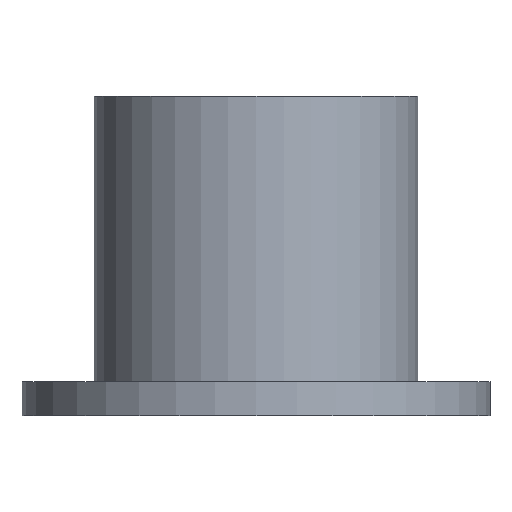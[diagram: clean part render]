
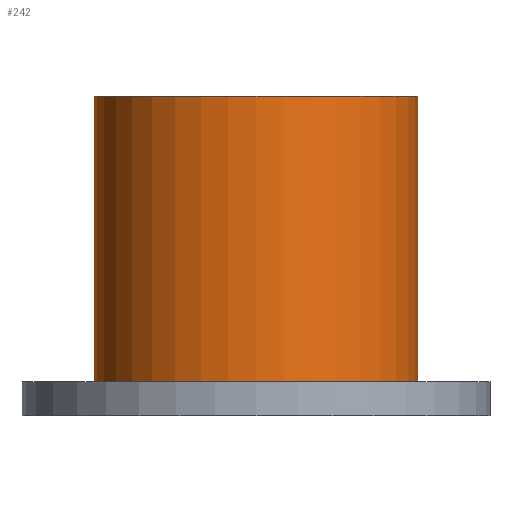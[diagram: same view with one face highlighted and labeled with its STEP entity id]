
A CAD part, front view. The second image highlights one B-rep face of the part: STEP entity #242.
In plain terms, the highlighted cylindrical face has radius 38 mm (diameter 76 mm), a full revolution.
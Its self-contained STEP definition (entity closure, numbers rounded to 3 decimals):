
#66 = PLANE('',#67);
#67 = AXIS2_PLACEMENT_3D('',#68,#69,#70);
#68 = CARTESIAN_POINT('',(0.,0.,8.));
#69 = DIRECTION('',(0.,0.,1.));
#70 = DIRECTION('',(1.,0.,-0.));
#151 = EDGE_CURVE('',#152,#152,#154,.T.);
#152 = VERTEX_POINT('',#153);
#153 = CARTESIAN_POINT('',(38.,0.,8.));
#154 = SURFACE_CURVE('',#155,(#160,#171),.PCURVE_S1.);
#155 = CIRCLE('',#156,38.);
#156 = AXIS2_PLACEMENT_3D('',#157,#158,#159);
#157 = CARTESIAN_POINT('',(0.,0.,8.));
#158 = DIRECTION('',(0.,0.,-1.));
#159 = DIRECTION('',(1.,0.,0.));
#160 = PCURVE('',#66,#161);
#161 = DEFINITIONAL_REPRESENTATION('',(#162),#170);
#162 = ( BOUNDED_CURVE() B_SPLINE_CURVE(2,(#163,#164,#165,#166,#167,#168
,#169),.UNSPECIFIED.,.T.,.F.) B_SPLINE_CURVE_WITH_KNOTS((1,2,2,2,2,1),(
    -2.094,0.,2.094,4.189,6.283,
8.378),.UNSPECIFIED.) CURVE() GEOMETRIC_REPRESENTATION_ITEM() 
RATIONAL_B_SPLINE_CURVE((1.,0.5,1.,0.5,1.,0.5,1.)) REPRESENTATION_ITEM(
  '') );
#163 = CARTESIAN_POINT('',(38.,0.));
#164 = CARTESIAN_POINT('',(38.,-65.818));
#165 = CARTESIAN_POINT('',(-19.,-32.909));
#166 = CARTESIAN_POINT('',(-76.,0.));
#167 = CARTESIAN_POINT('',(-19.,32.909));
#168 = CARTESIAN_POINT('',(38.,65.818));
#169 = CARTESIAN_POINT('',(38.,0.));
#170 = ( GEOMETRIC_REPRESENTATION_CONTEXT(2) 
PARAMETRIC_REPRESENTATION_CONTEXT() REPRESENTATION_CONTEXT('2D SPACE',''
  ) );
#171 = PCURVE('',#172,#177);
#172 = CYLINDRICAL_SURFACE('',#173,38.);
#173 = AXIS2_PLACEMENT_3D('',#174,#175,#176);
#174 = CARTESIAN_POINT('',(0.,0.,0.));
#175 = DIRECTION('',(-0.,-0.,-1.));
#176 = DIRECTION('',(1.,0.,0.));
#177 = DEFINITIONAL_REPRESENTATION('',(#178),#182);
#178 = LINE('',#179,#180);
#179 = CARTESIAN_POINT('',(-6.283,-8.));
#180 = VECTOR('',#181,1.);
#181 = DIRECTION('',(1.,-0.));
#182 = ( GEOMETRIC_REPRESENTATION_CONTEXT(2) 
PARAMETRIC_REPRESENTATION_CONTEXT() REPRESENTATION_CONTEXT('2D SPACE',''
  ) );
#226 = PLANE('',#227);
#227 = AXIS2_PLACEMENT_3D('',#228,#229,#230);
#228 = CARTESIAN_POINT('',(0.,0.,75.));
#229 = DIRECTION('',(0.,0.,1.));
#230 = DIRECTION('',(1.,0.,-0.));
#242 = ADVANCED_FACE('',(#243),#172,.T.);
#243 = FACE_BOUND('',#244,.F.);
#244 = EDGE_LOOP('',(#245,#246,#269,#291));
#245 = ORIENTED_EDGE('',*,*,#151,.T.);
#246 = ORIENTED_EDGE('',*,*,#247,.T.);
#247 = EDGE_CURVE('',#152,#248,#250,.T.);
#248 = VERTEX_POINT('',#249);
#249 = CARTESIAN_POINT('',(38.,0.,75.));
#250 = SEAM_CURVE('',#251,(#255,#262),.PCURVE_S1.);
#251 = LINE('',#252,#253);
#252 = CARTESIAN_POINT('',(38.,0.,0.));
#253 = VECTOR('',#254,1.);
#254 = DIRECTION('',(0.,0.,1.));
#255 = PCURVE('',#172,#256);
#256 = DEFINITIONAL_REPRESENTATION('',(#257),#261);
#257 = LINE('',#258,#259);
#258 = CARTESIAN_POINT('',(-6.283,0.));
#259 = VECTOR('',#260,1.);
#260 = DIRECTION('',(-0.,-1.));
#261 = ( GEOMETRIC_REPRESENTATION_CONTEXT(2) 
PARAMETRIC_REPRESENTATION_CONTEXT() REPRESENTATION_CONTEXT('2D SPACE',''
  ) );
#262 = PCURVE('',#172,#263);
#263 = DEFINITIONAL_REPRESENTATION('',(#264),#268);
#264 = LINE('',#265,#266);
#265 = CARTESIAN_POINT('',(-0.,0.));
#266 = VECTOR('',#267,1.);
#267 = DIRECTION('',(-0.,-1.));
#268 = ( GEOMETRIC_REPRESENTATION_CONTEXT(2) 
PARAMETRIC_REPRESENTATION_CONTEXT() REPRESENTATION_CONTEXT('2D SPACE',''
  ) );
#269 = ORIENTED_EDGE('',*,*,#270,.T.);
#270 = EDGE_CURVE('',#248,#248,#271,.T.);
#271 = SURFACE_CURVE('',#272,(#277,#284),.PCURVE_S1.);
#272 = CIRCLE('',#273,38.);
#273 = AXIS2_PLACEMENT_3D('',#274,#275,#276);
#274 = CARTESIAN_POINT('',(0.,0.,75.));
#275 = DIRECTION('',(0.,0.,1.));
#276 = DIRECTION('',(1.,0.,0.));
#277 = PCURVE('',#172,#278);
#278 = DEFINITIONAL_REPRESENTATION('',(#279),#283);
#279 = LINE('',#280,#281);
#280 = CARTESIAN_POINT('',(-0.,-75.));
#281 = VECTOR('',#282,1.);
#282 = DIRECTION('',(-1.,0.));
#283 = ( GEOMETRIC_REPRESENTATION_CONTEXT(2) 
PARAMETRIC_REPRESENTATION_CONTEXT() REPRESENTATION_CONTEXT('2D SPACE',''
  ) );
#284 = PCURVE('',#226,#285);
#285 = DEFINITIONAL_REPRESENTATION('',(#286),#290);
#286 = CIRCLE('',#287,38.);
#287 = AXIS2_PLACEMENT_2D('',#288,#289);
#288 = CARTESIAN_POINT('',(0.,0.));
#289 = DIRECTION('',(1.,0.));
#290 = ( GEOMETRIC_REPRESENTATION_CONTEXT(2) 
PARAMETRIC_REPRESENTATION_CONTEXT() REPRESENTATION_CONTEXT('2D SPACE',''
  ) );
#291 = ORIENTED_EDGE('',*,*,#247,.F.);
